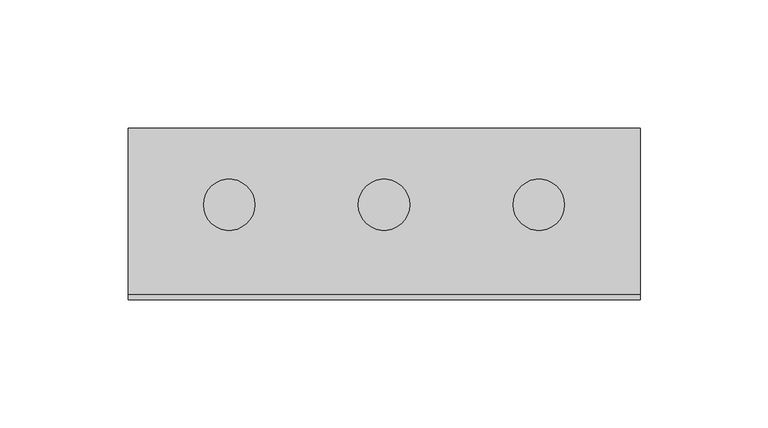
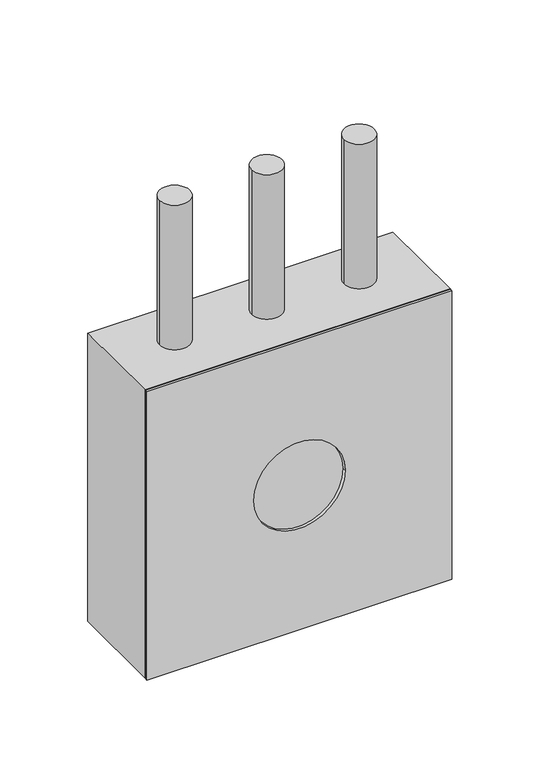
"""IFC4 building model written with IfcOpenShell, lengths in millimetres: flow terminal geometry, Plumbing Fixtures_Thermostatic Mixing Valve_Thornthwaite_Rada 215bk TMV in 200mm box : Rada 215bk TMV in recessed stainless steel box with Lid - 40863RB200."""

from ifc_helpers import new_model, si_unit, point, frame, frame_2d, origin, place, context, project, spatial, polyline, circle_curve, trimmed, segment, composite_curve, outline, extrude, faceted_brep, source, transform, mapped, element, save


def flow_terminal_3c11a249(model_context):
    return source(origin(), model_context, "Body", "SolidModel", [
        extrude(outline(composite_curve([segment(trimmed(circle_curve(frame_2d((-60.5, 7.5)), 10.0), [point((-50.5, 7.5))], [point((-70.5, 7.5))], False, "CARTESIAN"), True, "CONTINUOUS"), segment(trimmed(circle_curve(frame_2d((-60.5, 7.5)), 10.0), [point((-70.5, 7.5))], [point((-50.5, 7.5))], False, "CARTESIAN"), True, "CONTINUOUS")], self_intersect=False)), frame((0.0, 0.0, 634.0), z_axis=(0.0, 0.0, 1.0), x_axis=(1.0, 0.0, 0.0)), (0.0, 0.0, 1.0), 166.0),
        extrude(outline(composite_curve([segment(trimmed(circle_curve(frame_2d((60.5, 7.5)), 10.0), [point((70.5, 7.5))], [point((50.5, 7.5))], False, "CARTESIAN"), True, "CONTINUOUS"), segment(trimmed(circle_curve(frame_2d((60.5, 7.5)), 10.0), [point((50.5, 7.5))], [point((70.5, 7.5))], False, "CARTESIAN"), True, "CONTINUOUS")], self_intersect=False)), frame((0.0, 0.0, 634.0), z_axis=(0.0, 0.0, 1.0), x_axis=(1.0, 0.0, 0.0)), (0.0, 0.0, 1.0), 166.0),
        extrude(outline(composite_curve([segment(trimmed(circle_curve(frame_2d((0.0, 7.5)), 10.0), [point((10.0, 7.5))], [point((-10.0, 7.5))], False, "CARTESIAN"), True, "CONTINUOUS"), segment(trimmed(circle_curve(frame_2d((0.0, 7.5)), 10.0), [point((-10.0, 7.5))], [point((10.0, 7.5))], False, "CARTESIAN"), True, "CONTINUOUS")], self_intersect=False)), frame((0.0, 0.0, 644.5), z_axis=(0.0, 0.0, 1.0), x_axis=(1.0, 0.0, 0.0)), (0.0, 0.0, 1.0), 155.5),
        faceted_brep([(-100.0, -27.5, 500.0), (100.0, -27.5, 500.0), (100.0, -27.5, 700.0), (-100.0, -27.5, 700.0), (98.0, -27.5, 698.0), (98.0, -27.5, 502.0), (-98.0, -27.5, 502.0), (-98.0, -27.5, 698.0), (-100.0, 37.5, 500.0), (-100.0, 37.5, 700.0), (100.0, 37.5, 700.0), (100.0, 37.5, 500.0), (98.0, 35.5, 698.0), (-98.0, 35.5, 698.0), (-98.0, 35.5, 502.0), (98.0, 35.5, 502.0)], [[[0, 1, 2, 3], [4, 5, 6, 7]], [[8, 9, 10, 11]], [[0, 3, 9, 8]], [[3, 2, 10, 9]], [[2, 1, 11, 10]], [[1, 0, 8, 11]], [[12, 13, 14, 15]], [[4, 7, 13, 12]], [[7, 6, 14, 13]], [[6, 5, 15, 14]], [[5, 4, 12, 15]]]),
        extrude(outline(polyline([(700.0, 100.0), (700.0, -100.0), (500.0, -100.0), (500.0, 100.0), (700.0, 100.0)]), holes=[composite_curve([segment(trimmed(circle_curve(frame_2d((600.0, 0.0)), 30.0), [point((600.0, 30.0))], [point((600.0, -30.0))], True, "CARTESIAN"), True, "CONTINUOUS"), segment(trimmed(circle_curve(frame_2d((600.0, 0.0)), 30.0), [point((600.0, -30.0))], [point((600.0, 30.0))], True, "CARTESIAN"), True, "CONTINUOUS")], self_intersect=False)]), frame((0.0, -29.5, 0.0), z_axis=(0.0, 1.0, 0.0), x_axis=(0.0, 0.0, 1.0)), (0.0, 0.0, 1.0), 2.0),
    ])


if __name__ == "__main__":
    model = new_model("IFC4")
    model_context = context("Model", 3, world=origin())
    ifc_project = project(units=[si_unit("LENGTHUNIT", "METRE", prefix="MILLI")], contexts=[model_context])
    site = spatial("IfcSite", under=ifc_project)
    building = spatial("IfcBuilding", under=site)
    placement = place(None, origin())
    flow_terminal_shape = flow_terminal_3c11a249(model_context)
    element("IfcFlowTerminal", 1, ObjectType="Plumbing Fixtures_Thermostatic Mixing Valve_Thornthwaite_Rada 215bk TMV in 200mm box : Rada 215bk TMV in recessed stainless steel box with Lid - 40863RB200", at=placement, inside=building, context=model_context, shape_type="MappedRepresentation", body=[
        mapped(flow_terminal_shape, transform((0.0, 0.0, 0.0), x_axis=(1.0, 0.0, 0.0), y_axis=(0.0, 1.0, 0.0), z_axis=(0.0, 0.0, 1.0))),
    ])
    save(model, "model.ifc")
